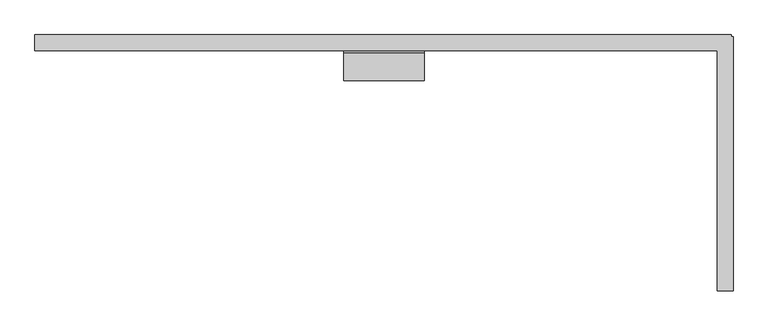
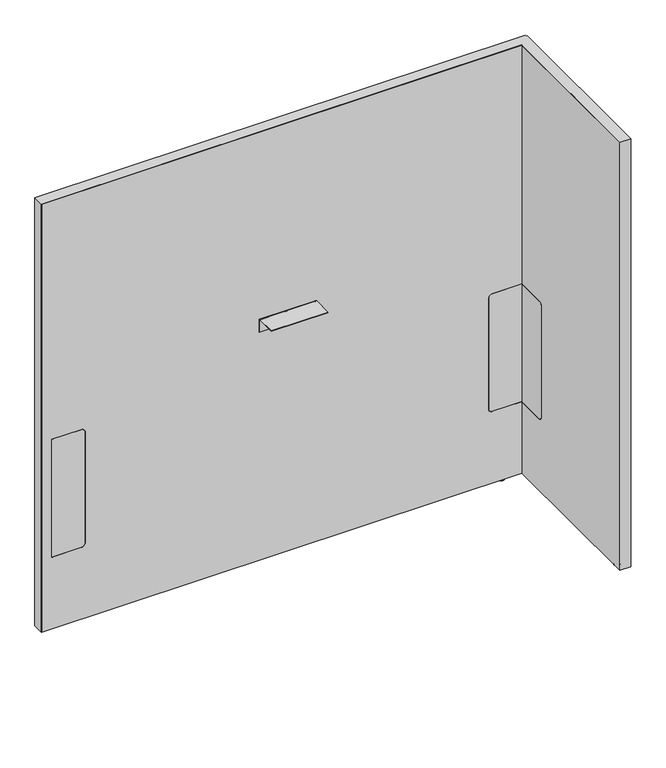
"""IFC4 building model written with IfcOpenShell, lengths in millimetres: furniture geometry, Steelcase - Answer Solution - Boundary Screen - L Return - Single Sided : 48H x 51W."""

import ifcopenshell
import ifcopenshell.guid

model = None  # the IFC model being written
_history = None  # IfcOwnerHistory: only IFC2X3 demands one
_inside = {}  # id of a spatial element -> (the spatial element, [elements in it])
_under = {}  # id of a project, library or spatial element -> (it, [spatial elements below it])
_declared = {}  # id of a project -> (the project, [libraries it declares])
_typed = {}  # id of a type object -> (the type object, [elements of that type])
_made_of = {}  # id of a material, layer set ... -> (it, [elements and type objects made of it])


def new_model(schema):
    """Start an empty IFC model of exactly this schema.

    Asked for "IFC4X3", IfcOpenShell would pick the latest addendum, in which some entities
    have other attributes; the version numbers below select the first issue.
    IFC2X3 requires an IfcOwnerHistory on every rooted entity: one is made here for all.
    """
    global model, _history
    if schema == "IFC4X3":
        model = ifcopenshell.file(schema_version=(4, 3, 0, 0))
    else:
        model = ifcopenshell.file(schema=schema)
    _inside.clear()
    _under.clear()
    _declared.clear()
    _typed.clear()
    _made_of.clear()
    _history = None
    if model.schema == "IFC2X3":
        org = make("IfcOrganization", Name="unknown")
        user = make(
            "IfcPersonAndOrganization",
            ThePerson=make("IfcPerson", FamilyName="unknown"),
            TheOrganization=org,
        )
        app = make(
            "IfcApplication",
            ApplicationDeveloper=org,
            Version="unknown",
            ApplicationFullName="unknown",
            ApplicationIdentifier="unknown",
        )
        _history = make(
            "IfcOwnerHistory",
            OwningUser=user,
            OwningApplication=app,
            ChangeAction="ADDED",
            CreationDate=0,
        )
    return model


def make(cls, **values):
    """One entity of the class cls with the attributes given. An attribute that is None is left unset."""
    return model.create_entity(
        cls, **{name: value for name, value in values.items() if value is not None}
    )


def rooted(cls, **values):
    """An entity with a GlobalId (a new one), such as an element, a storey or a relation."""
    return make(cls, GlobalId=ifcopenshell.guid.new(), OwnerHistory=_history, **values)


def si_unit(unit_type, name, prefix=None):
    """IfcSIUnit, for example si_unit("LENGTHUNIT", "METRE", prefix="MILLI")."""
    return make("IfcSIUnit", UnitType=unit_type, Prefix=prefix, Name=name)


def assignment(units):
    """IfcUnitAssignment: the units of a project."""
    return None if units is None else make("IfcUnitAssignment", Units=units)


def point(xyz):
    """IfcCartesianPoint."""
    return None if xyz is None else make("IfcCartesianPoint", Coordinates=xyz)


def direction(xyz):
    """IfcDirection."""
    return None if xyz is None else make("IfcDirection", DirectionRatios=xyz)


def frame(location, z_axis=None, x_axis=None):
    """IfcAxis2Placement3D, a coordinate frame: its origin and axes. An axis left out is left unset."""
    return make(
        "IfcAxis2Placement3D",
        Location=point(location),
        Axis=direction(z_axis),
        RefDirection=direction(x_axis),
    )


def frame_2d(location, x_axis=None):
    """IfcAxis2Placement2D, a coordinate frame in the plane: its origin and x axis."""
    return make(
        "IfcAxis2Placement2D", Location=point(location), RefDirection=direction(x_axis)
    )


def origin():
    """The frame at (0, 0, 0) with its axes left unset."""
    return frame((0.0, 0.0, 0.0))


def place(relative_to, where):
    """IfcLocalPlacement: puts the frame where relative to a parent placement (None: the world)."""
    return make(
        "IfcLocalPlacement", PlacementRelTo=relative_to, RelativePlacement=where
    )


def context(
    kind, dimensions, precision=None, world=None, true_north=None, identifier=None
):
    """IfcGeometricRepresentationContext, for example the 3D "Model" context."""
    return make(
        "IfcGeometricRepresentationContext",
        ContextIdentifier=identifier,
        ContextType=kind,
        CoordinateSpaceDimension=dimensions,
        Precision=precision,
        WorldCoordinateSystem=world,
        TrueNorth=true_north,
    )


def project(units=None, contexts=None):
    """IfcProject with its units and contexts."""
    return rooted(
        "IfcProject",
        Name="project",
        RepresentationContexts=contexts,
        UnitsInContext=assignment(units),
    )


def spatial(cls, under=None, at=None, **own):
    """A site, building, storey or space (cls), placed at a placement, below another one or the project."""
    s = rooted(cls, ObjectPlacement=at, **own)
    if under is not None:
        _under.setdefault(under.id(), (under, []))[1].append(s)
    return s


def polyline(points):
    """IfcPolyline through the points."""
    return make("IfcPolyline", Points=[point(p) for p in points])


def circle_curve(where, radius):
    """IfcCircle in the frame where."""
    return make("IfcCircle", Position=where, Radius=radius)


def ellipse_curve(where, semi_axis1, semi_axis2):
    """IfcEllipse in the frame where."""
    return make(
        "IfcEllipse", Position=where, SemiAxis1=semi_axis1, SemiAxis2=semi_axis2
    )


def trimmed(basis, trim1, trim2, sense, master):
    """IfcTrimmedCurve: the piece of a basis curve between two trims."""
    return make(
        "IfcTrimmedCurve",
        BasisCurve=basis,
        Trim1=trim1,
        Trim2=trim2,
        SenseAgreement=sense,
        MasterRepresentation=master,
    )


def segment(curve, same_sense, transition):
    """IfcCompositeCurveSegment."""
    return make(
        "IfcCompositeCurveSegment",
        Transition=transition,
        SameSense=same_sense,
        ParentCurve=curve,
    )


def composite_curve(segments, self_intersect=None):
    """IfcCompositeCurve: segments joined end to end."""
    return make("IfcCompositeCurve", Segments=segments, SelfIntersect=self_intersect)


def outline(outer, holes=None, kind="AREA"):
    """IfcArbitraryClosedProfileDef: a profile drawn as a closed curve; with holes, ...WithVoids."""
    if holes is None:
        return make("IfcArbitraryClosedProfileDef", ProfileType=kind, OuterCurve=outer)
    return make(
        "IfcArbitraryProfileDefWithVoids",
        ProfileType=kind,
        OuterCurve=outer,
        InnerCurves=holes,
    )


def extrude(swept, where, along, depth):
    """IfcExtrudedAreaSolid: the profile swept, set in the frame where, extruded along a direction by depth."""
    return make(
        "IfcExtrudedAreaSolid",
        SweptArea=swept,
        Position=where,
        ExtrudedDirection=direction(along),
        Depth=depth,
    )


def faces_of(points, faces, orient=None, outer=None):
    """IfcFace entities. A face is a list of loops; a loop is a list of indices into points, from 0.

    orient and outer hold one flag for each loop. By default every Orientation is true, the
    first loop of a face is its IfcFaceOuterBound and the others are IfcFaceBound.
    """
    made = []
    for i, loops in enumerate(faces):
        bounds = []
        for j, loop in enumerate(loops):
            is_outer = j == 0 if outer is None else outer[i][j]
            bounds.append(
                make(
                    "IfcFaceOuterBound" if is_outer else "IfcFaceBound",
                    Bound=make("IfcPolyLoop", Polygon=[points[k] for k in loop]),
                    Orientation=True if orient is None else orient[i][j],
                )
            )
        made.append(make("IfcFace", Bounds=bounds))
    return made


def faceted_brep(points, faces, orient=None, outer=None, voids=None):
    """IfcFacetedBrep: a solid bounded by flat faces; with voids (closed shells), ...WithVoids."""
    shared = [point(p) for p in points]
    hull = make("IfcClosedShell", CfsFaces=faces_of(shared, faces, orient, outer))
    if voids is None:
        return make("IfcFacetedBrep", Outer=hull)
    return make(
        "IfcFacetedBrepWithVoids",
        Outer=hull,
        Voids=[
            make(cls, CfsFaces=faces_of(shared, fs, o, b)) for cls, fs, o, b in voids
        ],
    )


def shape(context_of_items, identifier, shape_type, items):
    """IfcShapeRepresentation: the items that make up one representation, for example the "Body"."""
    return make(
        "IfcShapeRepresentation",
        ContextOfItems=context_of_items,
        RepresentationIdentifier=identifier,
        RepresentationType=shape_type,
        Items=items,
    )


def source(mapping_origin, context_of_items, identifier, shape_type, items):
    """IfcRepresentationMap: a shape defined once, which mapped items show again and again."""
    return make(
        "IfcRepresentationMap",
        MappingOrigin=mapping_origin,
        MappedRepresentation=shape(context_of_items, identifier, shape_type, items),
    )


def transform(
    local_origin,
    x_axis=None,
    y_axis=None,
    z_axis=None,
    scale=None,
    scale2=None,
    scale3=None,
    uniform=True,
):
    """IfcCartesianTransformationOperator3D, or its non-uniform kind. x_axis, y_axis, z_axis: its Axis1, 2, 3."""
    if uniform:
        return make(
            "IfcCartesianTransformationOperator3D",
            Axis1=direction(x_axis),
            Axis2=direction(y_axis),
            LocalOrigin=point(local_origin),
            Scale=scale,
            Axis3=direction(z_axis),
        )
    return make(
        "IfcCartesianTransformationOperator3DnonUniform",
        Axis1=direction(x_axis),
        Axis2=direction(y_axis),
        LocalOrigin=point(local_origin),
        Scale=scale,
        Axis3=direction(z_axis),
        Scale2=scale2,
        Scale3=scale3,
    )


def mapped(mapping_source, mapping_target):
    """IfcMappedItem: shows the shape of a source again, moved by a transform."""
    return make(
        "IfcMappedItem", MappingSource=mapping_source, MappingTarget=mapping_target
    )


def made_of(thing, what):
    """Note that an element or type object is made of a material, layer set ...; save() writes the relation."""
    if what is not None:
        _made_of.setdefault(what.id(), (what, []))[1].append(thing)
    return thing


def element(
    cls,
    number,
    at=None,
    inside=None,
    cuts=None,
    type_object=None,
    material=None,
    context=None,
    identifier="Body",
    shape_type=None,
    held_by="IfcProductDefinitionShape",
    body=None,
    shapes=None,
    **own,
):
    """One element of the class cls, such as IfcWall. Its Tag is "e" and its number.

    at: its placement. inside: the storey or other place that contains it. cuts: it is an
    opening in that element (IfcRelVoidsElement). A single representation is given by context,
    identifier, shape_type and body (its items); several are given by shapes. held_by: the class
    of the entity that holds the representations. save() writes the other relations.
    """
    e = rooted(cls, Tag="e%d" % number, ObjectPlacement=at, **own)
    if body is not None:
        shapes = [shape(context, identifier, shape_type, body)]
    if shapes is not None:
        e.Representation = make(held_by, Representations=shapes)
    if inside is not None:
        _inside.setdefault(inside.id(), (inside, []))[1].append(e)
    if cuts is not None:
        rooted(
            "IfcRelVoidsElement", RelatingBuildingElement=cuts, RelatedOpeningElement=e
        )
    if type_object is not None:
        _typed.setdefault(type_object.id(), (type_object, []))[1].append(e)
    return made_of(e, material)


def aggregate(whole, parts):
    """IfcRelAggregates: a whole, such as a stair, and the parts it consists of."""
    return rooted("IfcRelAggregates", RelatingObject=whole, RelatedObjects=parts)


def save(model, path):
    """Write the relations noted so far, then the file.

    IfcRelAggregates (storeys below a building ...), IfcRelContainedInSpatialStructure (elements
    in a storey), IfcRelDefinesByType, IfcRelAssociatesMaterial and IfcRelDeclares: one each for
    every whole, place, type object, material and project.
    """
    for whole, parts in _under.values():
        aggregate(whole, parts)
    for where, things in _inside.values():
        rooted(
            "IfcRelContainedInSpatialStructure",
            RelatedElements=things,
            RelatingStructure=where,
        )
    for kind, things in _typed.values():
        rooted("IfcRelDefinesByType", RelatedObjects=things, RelatingType=kind)
    for what, things in _made_of.values():
        rooted("IfcRelAssociatesMaterial", RelatedObjects=things, RelatingMaterial=what)
    for by, libraries in _declared.values():
        rooted("IfcRelDeclares", RelatingContext=by, RelatedDefinitions=libraries)
    model.write(path)


def plane_surface(at):
    """IfcPlane: the flat surface through the origin of the frame at, square to its z axis."""
    return make("IfcPlane", Position=at)


def cylinder_surface(at, radius):
    """IfcCylindricalSurface: all points at the distance radius from the z axis of the frame at."""
    return make("IfcCylindricalSurface", Position=at, Radius=radius)


def revolved_surface(curve, axis_point, axis_direction):
    """IfcSurfaceOfRevolution: the curve turned about the line through axis_point along axis_direction."""
    return make(
        "IfcSurfaceOfRevolution",
        SweptCurve=make("IfcArbitraryOpenProfileDef", ProfileType="CURVE", Curve=curve),
        AxisPosition=make("IfcAxis1Placement", Location=point(axis_point), Axis=direction(axis_direction)),
    )


def advanced_brep(points, edges, surfaces, faces):
    """IfcAdvancedBrep: a solid bounded by faces that lie on surfaces and meet in shared edges.

    An edge is (start, end): straight between two places in points (the first is 0);
    or (start, end, curve); or (start, end, curve, False) where it runs against its curve.
    A face is (place in surfaces, loops), or (place, loops, False) where it looks against
    its surface's normal. A loop lists edges by number (the first is 1), with a minus sign
    where the edge is run from its end to its start. The first loop is the outer one.
    """
    corners = [point(p) for p in points]
    vertices = [make("IfcVertexPoint", VertexGeometry=c) for c in corners]
    made = []
    for start, end, *more in edges:
        made.append(
            make(
                "IfcEdgeCurve",
                EdgeStart=vertices[start],
                EdgeEnd=vertices[end],
                EdgeGeometry=more[0] if more else make("IfcPolyline", Points=[corners[start], corners[end]]),
                SameSense=more[1] if len(more) > 1 else True,
            )
        )
    hull = []
    for where, loops, *sense in faces:
        bounds = []
        for j, loop in enumerate(loops):
            ring = [make("IfcOrientedEdge", EdgeElement=made[abs(k) - 1], Orientation=k > 0) for k in loop]
            bounds.append(
                make(
                    "IfcFaceOuterBound" if j == 0 else "IfcFaceBound",
                    Bound=make("IfcEdgeLoop", EdgeList=ring),
                    Orientation=True,
                )
            )
        hull.append(make("IfcAdvancedFace", Bounds=bounds, FaceSurface=surfaces[where], SameSense=sense[0] if sense else True))
    return make("IfcAdvancedBrep", Outer=make("IfcClosedShell", CfsFaces=hull))


def furniture_119cb64d(model_context):
    return source(origin(), model_context, "Body", "SolidModel", [
        extrude(outline(composite_curve([segment(polyline([(-109.3501471, 549.6162029), (-29.0550397, 549.6162029), (-29.0550397, 213.7762137), (-109.3501471, 213.7762137)]), True, "CONTINUOUS"), segment(trimmed(circle_curve(frame_2d((-109.3501471, 223.9362137)), 10.16), [point((-109.3501471, 213.7762137))], [point((-119.5101471, 223.9362137))], False, "CARTESIAN"), True, "CONTINUOUS"), segment(polyline([(-119.5101471, 223.9362137), (-119.5101471, 539.4562029)]), True, "CONTINUOUS"), segment(trimmed(circle_curve(frame_2d((-109.3501471, 539.4562029)), 10.16), [point((-119.5101471, 539.4562029))], [point((-109.3501471, 549.6162029))], False, "CARTESIAN"), True, "CONTINUOUS")], self_intersect=False)), frame((1525.2191891, 0.0, 0.0), z_axis=(1.0, 0.0, 0.0), x_axis=(0.0, 1.0, 0.0)), (0.0, 0.0, 1.0), 0.6401544),
        advanced_brep(
        [(1540.0672074, -448.0136072, 0.0), (1547.0216144, -448.0136072, 0.0), (1533.1128003, -448.0136072, 0.0), (1548.4762685, -448.0136072, 1.2700001), (1531.6581463, -448.0136072, 1.2700001), (1548.4762685, -448.0136072, 2.9673238), (1531.6581463, -448.0136072, 2.9673238), (1549.4427877, -448.0136072, 2.9673238), (1530.691627, -448.0136072, 2.9673238), (1549.4427877, -448.0136072, 9.9059849), (1530.691627, -448.0136072, 9.9059849), (1540.0672074, -448.0136072, 9.9059849)],
        [
            (0, 1),
            (1, 2, circle_curve(frame((1540.0672074, -448.0136072, 0.0), z_axis=(0.0, 0.0, -1.0), x_axis=(1.0, 0.0, 0.0)), 6.9544071)),
            (2, 0),
            (2, 1, circle_curve(frame((1540.0672074, -448.0136072, 0.0), z_axis=(0.0, 0.0, -1.0), x_axis=(1.0, 0.0, 0.0)), 6.9544071)),
            (1, 3, circle_curve(frame((1547.1945484, -448.0136072, 1.2700001), z_axis=(0.0, -1.0, 0.0), x_axis=(0.0, 0.0, 1.0)), 1.2817201)),
            (3, 4, circle_curve(frame((1540.0672074, -448.0136072, 1.2700001), z_axis=(0.0, 0.0, -1.0), x_axis=(1.0, 0.0, 0.0)), 8.4090611)),
            (4, 2, circle_curve(frame((1532.9398663, -448.0136072, 1.2700001), z_axis=(0.0, -1.0, 0.0), x_axis=(0.0, 0.0, 1.0)), 1.2817201)),
            (4, 3, circle_curve(frame((1540.0672074, -448.0136072, 1.2700001), z_axis=(0.0, 0.0, -1.0), x_axis=(1.0, 0.0, 0.0)), 8.4090611)),
            (3, 5),
            (5, 6, circle_curve(frame((1540.0672074, -448.0136072, 2.9673238), z_axis=(0.0, 0.0, -1.0), x_axis=(1.0, 0.0, 0.0)), 8.4090611)),
            (6, 4),
            (6, 5, circle_curve(frame((1540.0672074, -448.0136072, 2.9673238), z_axis=(0.0, 0.0, -1.0), x_axis=(1.0, 0.0, 0.0)), 8.4090611)),
            (5, 7),
            (7, 8, circle_curve(frame((1540.0672074, -448.0136072, 2.9673238), z_axis=(0.0, 0.0, -1.0), x_axis=(1.0, 0.0, 0.0)), 9.3755804)),
            (8, 6),
            (8, 7, circle_curve(frame((1540.0672074, -448.0136072, 2.9673238), z_axis=(0.0, 0.0, -1.0), x_axis=(1.0, 0.0, 0.0)), 9.3755804)),
            (7, 9),
            (9, 10, circle_curve(frame((1540.0672074, -448.0136072, 9.9059849), z_axis=(0.0, 0.0, -1.0), x_axis=(1.0, 0.0, 0.0)), 9.3755804)),
            (10, 8),
            (10, 9, circle_curve(frame((1540.0672074, -448.0136072, 9.9059849), z_axis=(0.0, 0.0, -1.0), x_axis=(1.0, 0.0, 0.0)), 9.3755804)),
            (9, 11),
            (11, 10),
        ],
        [
            plane_surface(frame((1540.0672074, -448.0136072, 0.0), z_axis=(0.0, 0.0, -1.0), x_axis=(1.0, 0.0, 0.0))),
            revolved_surface(trimmed(ellipse_curve(frame((1547.1945484, -448.0136072, 1.2700001), z_axis=(0.0, 1.0, 0.0), x_axis=(0.0, 0.0, 1.0)), 1.2817201, 1.2817201), [point((1548.4762685, -448.0136072, 1.2700001))], [point((1547.0216144, -448.0136072, 0.0))], True, "CARTESIAN"), (1540.0672074, -448.0136072, 9.9059849), (0.0, 0.0, -1.0)),
            cylinder_surface(frame((1540.0672074, -448.0136072, 9.9059849), z_axis=(0.0, 0.0, -1.0), x_axis=(1.0, 0.0, 0.0)), 8.4090611),
            plane_surface(frame((1540.0672074, -448.0136072, 2.9673238), z_axis=(0.0, 0.0, -1.0), x_axis=(1.0, 0.0, 0.0))),
            cylinder_surface(frame((1540.0672074, -448.0136072, 9.9059849), z_axis=(0.0, 0.0, -1.0), x_axis=(1.0, 0.0, 0.0)), 9.3755804),
            plane_surface(frame((1540.0672074, -448.0136072, 9.9059849), z_axis=(0.0, 0.0, 1.0), x_axis=(1.0, 0.0, 0.0))),
        ],
        [
            (0, [[1, 2, 3]]),
            (0, [[-3, 4, -1]]),
            (1, [[-2, 5, 6, 7]]),
            (1, [[-4, -7, 8, -5]]),
            (2, [[-6, 9, 10, 11]]),
            (2, [[-8, -11, 12, -9]]),
            (3, [[-10, 13, 14, 15]]),
            (3, [[-12, -15, 16, -13]]),
            (4, [[-14, 17, 18, 19]]),
            (4, [[-16, -19, 20, -17]]),
            (5, [[-18, 21, 22]]),
            (5, [[-20, -22, -21]]),
        ],
    ),
        faceted_brep([(1551.6531179, 0.0, 1230.122), (1551.6531179, 0.0, 9.9059849), (1550.6621491, 0.0, 9.9059849), (1550.6621491, 0.0, 1229.142118), (230.8097779, 0.0, 1229.142118), (230.8097779, 0.0, 9.9059849), (229.8191891, 0.0, 9.9059849), (229.8191891, 0.0, 1230.122), (229.8191891, -29.6898332, 1230.122), (229.8191891, -29.6898332, 9.9059849), (230.8097779, -29.6898332, 9.9059849), (230.8097779, -29.6898332, 1229.142118), (1525.2191891, -29.6898332, 1229.142118), (1525.2191891, -29.6898332, 1230.122), (1550.6621491, -29.6898332, 1229.142118), (1550.6621491, -29.6898332, 9.9059849), (1551.6531179, -29.6898332, 9.9059849), (1551.6531179, -29.6898332, 1229.142118), (1551.6531179, -3.2625916, 1230.122), (1551.6531179, -3.2625916, 9.9059849), (1551.6531179, -4.252647, 9.9059849), (1551.6531179, -4.252647, 1229.142118), (1554.9152256, -3.2625916, 9.9059849), (1554.9152256, -4.252647, 9.9059849), (1550.6621491, -4.252647, 9.9059849), (1525.2191891, -4.252647, 9.9059849), (1525.2191891, -3.2625916, 9.9059849), (1550.6621491, -3.2625916, 9.9059849), (1525.2191891, -486.8898332, 1230.122), (1554.9152256, -486.8898332, 1230.122), (1554.9152256, -3.2625916, 1230.122), (1550.6621491, -3.2625916, 1229.142118), (1550.6621491, -4.252647, 1229.142118), (1525.2191891, -3.2625916, 1229.142118), (1525.2191891, -4.252647, 1229.142118), (1554.9152256, -4.252647, 1229.142118), (1554.9152256, -485.899196, 1229.142118), (1525.2191891, -485.899196, 1229.142118), (1525.2191891, -485.899196, 9.9059849), (1525.2191891, -486.8898332, 9.9059849), (1554.9152256, -486.8898332, 9.9059849), (1554.9152256, -485.899196, 9.9059849)], [[[0, 1, 2, 3, 4, 5, 6, 7]], [[8, 9, 10, 11, 12, 13]], [[14, 15, 16, 17]], [[1, 0, 18, 19]], [[17, 16, 20, 21]], [[2, 1, 19, 22, 23, 20, 16, 15, 24, 25, 26, 27]], [[7, 6, 9, 8]], [[0, 7, 8, 13, 28, 29, 30, 18]], [[3, 2, 27, 31]], [[15, 14, 32, 24]], [[4, 3, 31, 33, 34, 32, 14, 17, 21, 35, 36, 37, 12, 11]], [[5, 4, 11, 10]], [[6, 5, 10, 9]], [[26, 25, 34, 33]], [[37, 38, 39, 28, 13, 12]], [[29, 40, 41, 36, 35, 23, 22, 30]], [[27, 26, 33, 31]], [[30, 22, 19, 18]], [[34, 25, 24, 32]], [[23, 35, 21, 20]], [[38, 37, 36, 41]], [[39, 38, 41, 40]], [[28, 39, 40, 29]]]),
        extrude(outline(composite_curve([segment(polyline([(-86.8398151, 696.4680019), (-86.8398151, 698.5), (-34.9450855, 698.5)]), True, "CONTINUOUS"), segment(trimmed(circle_curve(frame_2d((-34.9450855, 693.2447477)), 5.2552523), [point((-34.9450855, 698.5))], [point((-29.6898332, 693.2447477))], False, "CARTESIAN"), True, "CONTINUOUS"), segment(polyline([(-29.6898332, 693.2447477), (-29.6898332, 660.4), (-31.7218162, 660.4), (-31.7218162, 693.0058743)]), True, "CONTINUOUS"), segment(trimmed(circle_curve(frame_2d((-35.1839438, 693.0058743)), 3.4621276), [point((-31.7218162, 693.0058743))], [point((-35.1839438, 696.4680019))], True, "CARTESIAN"), True, "CONTINUOUS"), segment(polyline([(-35.1839438, 696.4680019), (-86.8398151, 696.4680019)]), True, "CONTINUOUS")], self_intersect=False)), frame((816.1685899, 0.0, 0.0), z_axis=(1.0, 0.0, 0.0), x_axis=(0.0, 1.0, 0.0)), (0.0, 0.0, 1.0), 152.4000969),
        advanced_brep(
        [(1477.7246853, -23.7588726, 9.9059849), (1477.7246853, -5.9309607, 9.9059849), (1477.7246853, -14.8449166, 9.9059849), (1477.7246853, -23.7588726, 2.9673238), (1477.7246853, -5.9309607, 2.9673238), (1477.7246853, -22.7915354, 2.9673238), (1477.7246853, -6.8982978, 2.9673238), (1477.7246853, -22.7915354, 1.6569081), (1477.7246853, -6.8982978, 1.6569081), (1477.7246853, -21.1346274, 0.0), (1477.7246853, -8.5552059, 0.0), (1477.7246853, -14.8449166, 0.0)],
        [
            (0, 1, circle_curve(frame((1477.7246853, -14.8449166, 9.9059849), z_axis=(0.0, 0.0, 1.0), x_axis=(0.0, 1.0, 0.0)), 8.913956)),
            (1, 2),
            (2, 0),
            (1, 0, circle_curve(frame((1477.7246853, -14.8449166, 9.9059849), z_axis=(0.0, 0.0, 1.0), x_axis=(0.0, 1.0, 0.0)), 8.913956)),
            (3, 4, circle_curve(frame((1477.7246853, -14.8449166, 2.9673238), z_axis=(0.0, 0.0, 1.0), x_axis=(0.0, 1.0, 0.0)), 8.913956)),
            (4, 1),
            (0, 3),
            (4, 3, circle_curve(frame((1477.7246853, -14.8449166, 2.9673238), z_axis=(0.0, 0.0, 1.0), x_axis=(0.0, 1.0, 0.0)), 8.913956)),
            (5, 6, circle_curve(frame((1477.7246853, -14.8449166, 2.9673238), z_axis=(0.0, 0.0, 1.0), x_axis=(0.0, 1.0, 0.0)), 7.9466188)),
            (6, 4),
            (3, 5),
            (6, 5, circle_curve(frame((1477.7246853, -14.8449166, 2.9673238), z_axis=(0.0, 0.0, 1.0), x_axis=(0.0, 1.0, 0.0)), 7.9466188)),
            (7, 8, circle_curve(frame((1477.7246853, -14.8449166, 1.6569081), z_axis=(0.0, 0.0, 1.0), x_axis=(0.0, 1.0, 0.0)), 7.9466188)),
            (8, 6),
            (5, 7),
            (8, 7, circle_curve(frame((1477.7246853, -14.8449166, 1.6569081), z_axis=(0.0, 0.0, 1.0), x_axis=(0.0, 1.0, 0.0)), 7.9466188)),
            (9, 10, circle_curve(frame((1477.7246853, -14.8449166, 0.0), z_axis=(0.0, 0.0, 1.0), x_axis=(0.0, 1.0, 0.0)), 6.2897107)),
            (10, 8, circle_curve(frame((1477.7246853, -8.5552059, 1.6569081), z_axis=(1.0, 0.0, 0.0), x_axis=(0.0, 1.0, 0.0)), 1.6569081)),
            (7, 9, circle_curve(frame((1477.7246853, -21.1346274, 1.6569081), z_axis=(1.0, 0.0, 0.0), x_axis=(0.0, -1.0, 0.0)), 1.6569081)),
            (10, 9, circle_curve(frame((1477.7246853, -14.8449166, 0.0), z_axis=(0.0, 0.0, 1.0), x_axis=(0.0, 1.0, 0.0)), 6.2897107)),
            (11, 10),
            (9, 11),
        ],
        [
            plane_surface(frame((1477.7246853, -14.8449166, 9.9059849), z_axis=(0.0, 0.0, 1.0), x_axis=(0.0, 1.0, 0.0))),
            cylinder_surface(frame((1477.7246853, -14.8449166, 9.9059849), z_axis=(0.0, 0.0, -1.0), x_axis=(0.0, 1.0, 0.0)), 8.913956),
            plane_surface(frame((1477.7246853, -14.8449166, 2.9673238), z_axis=(0.0, 0.0, -1.0), x_axis=(0.0, 1.0, 0.0))),
            cylinder_surface(frame((1477.7246853, -14.8449166, 9.9059849), z_axis=(0.0, 0.0, -1.0), x_axis=(0.0, 1.0, 0.0)), 7.9466188),
            revolved_surface(trimmed(ellipse_curve(frame((1477.7246853, -8.5552059, 1.6569081), z_axis=(-1.0, 0.0, 0.0), x_axis=(0.0, 1.0, 0.0)), 1.6569081, 1.6569081), [point((1477.7246853, -6.8982978, 1.6569081))], [point((1477.7246853, -8.5552059, 0.0))], True, "CARTESIAN"), (1477.7246853, -14.8449166, 9.9059849), (0.0, 0.0, -1.0)),
            plane_surface(frame((1477.7246853, -14.8449166, 0.0), z_axis=(0.0, 0.0, -1.0), x_axis=(0.0, 1.0, 0.0))),
        ],
        [
            (0, [[1, 2, 3]]),
            (0, [[4, -3, -2]]),
            (1, [[5, 6, -1, 7]]),
            (1, [[8, -7, -4, -6]]),
            (2, [[9, 10, -5, 11]]),
            (2, [[12, -11, -8, -10]]),
            (3, [[13, 14, -9, 15]]),
            (3, [[16, -15, -12, -14]]),
            (4, [[17, 18, -13, 19]]),
            (4, [[20, -19, -16, -18]]),
            (5, [[21, -17, 22]]),
            (5, [[-22, -20, -21]]),
        ],
    ),
        advanced_brep(
        [(230.8097779, 0.0, 1229.142118), (1550.6621491, 0.0, 1229.142118), (1550.6621491, 0.0, 9.9059849), (230.8097779, 0.0, 9.9059849), (347.9483813, -29.0550397, 539.4562029), (337.7883813, -29.0550397, 549.6162029), (258.1344836, -29.0550397, 549.6162029), (258.1344836, -29.0550397, 213.7762137), (337.7883813, -29.0550397, 213.7762137), (347.9483813, -29.0550397, 223.9362137), (1525.8593435, -29.0550397, 213.7762137), (1525.8593435, -29.0550397, 549.6162029), (1445.3109268, -29.0550397, 549.6162029), (1435.1509268, -29.0550397, 539.4562029), (1435.1509268, -29.0550397, 223.9362137), (1445.3109268, -29.0550397, 213.7762137), (230.8097779, -29.6898332, 1229.142118), (230.8097779, -29.6898332, 9.9059849), (1525.2191891, -29.6898332, 9.9059849), (1525.2191891, -29.6898332, 213.7762137), (1445.3109268, -29.6898332, 213.7762137), (1435.1509268, -29.6898332, 223.9362137), (1435.1509268, -29.6898332, 539.4562029), (1445.3109268, -29.6898332, 549.6162029), (1525.2191891, -29.6898332, 549.6162029), (1525.2191891, -29.6898332, 1229.142118), (337.7883813, -29.6898332, 549.6162029), (347.9483813, -29.6898332, 539.4562029), (347.9483813, -29.6898332, 223.9362137), (337.7883813, -29.6898332, 213.7762137), (258.1344836, -29.6898332, 213.7762137), (258.1344836, -29.6898332, 549.6162029), (1550.6621491, -4.252647, 9.9059849), (1554.9152256, -4.252647, 9.9059849), (1554.9152256, -485.899196, 9.9059849), (1525.2191891, -485.899196, 9.9059849), (1550.6621491, -4.252647, 1229.142118), (1525.2191891, -485.899196, 1229.142118), (1554.9152256, -485.899196, 1229.142118), (1554.9152256, -4.252647, 1229.142118), (1525.8593435, -109.3501471, 549.6162029), (1525.2191891, -109.3501471, 549.6162029), (1525.8593435, -109.3501471, 213.7762137), (1525.8593435, -119.5101471, 223.9362137), (1525.8593435, -119.5101471, 539.4562029), (1525.2191891, -109.3501471, 213.7762137), (1525.2191891, -119.5101471, 539.4562029), (1525.2191891, -119.5101471, 223.9362137)],
        [
            (0, 1),
            (1, 2),
            (2, 3),
            (3, 0),
            (4, 5, circle_curve(frame((337.7883813, -29.0550397, 539.4562029), z_axis=(0.0, -1.0, 0.0), x_axis=(0.0, 0.0, 1.0)), 10.16)),
            (5, 6),
            (6, 7),
            (7, 8),
            (8, 9, circle_curve(frame((337.7883813, -29.0550397, 223.9362137), z_axis=(0.0, -1.0, 0.0), x_axis=(0.0, 0.0, 1.0)), 10.16)),
            (9, 4),
            (10, 11),
            (11, 12),
            (12, 13, circle_curve(frame((1445.3109268, -29.0550397, 539.4562029), z_axis=(0.0, -1.0, 0.0), x_axis=(0.0, 0.0, 1.0)), 10.16)),
            (13, 14),
            (14, 15, circle_curve(frame((1445.3109268, -29.0550397, 223.9362137), z_axis=(0.0, -1.0, 0.0), x_axis=(0.0, 0.0, 1.0)), 10.16)),
            (15, 10),
            (16, 17),
            (17, 18),
            (18, 19),
            (19, 20),
            (20, 21, circle_curve(frame((1445.3109268, -29.6898332, 223.9362137), z_axis=(0.0, 1.0, 0.0), x_axis=(0.0, 0.0, 1.0)), 10.16)),
            (21, 22),
            (22, 23, circle_curve(frame((1445.3109268, -29.6898332, 539.4562029), z_axis=(0.0, 1.0, 0.0), x_axis=(0.0, 0.0, 1.0)), 10.16)),
            (23, 24),
            (24, 25),
            (25, 16),
            (26, 27, circle_curve(frame((337.7883813, -29.6898332, 539.4562029), z_axis=(0.0, 1.0, 0.0), x_axis=(0.0, 0.0, 1.0)), 10.16)),
            (27, 28),
            (28, 29, circle_curve(frame((337.7883813, -29.6898332, 223.9362137), z_axis=(0.0, 1.0, 0.0), x_axis=(0.0, 0.0, 1.0)), 10.16)),
            (29, 30),
            (30, 31),
            (31, 26),
            (16, 0),
            (3, 17),
            (2, 32),
            (32, 33),
            (33, 34),
            (34, 35),
            (35, 18),
            (1, 36),
            (36, 32),
            (25, 37),
            (37, 38),
            (38, 39),
            (39, 36),
            (26, 5),
            (4, 27),
            (9, 28),
            (8, 29),
            (7, 30),
            (6, 31),
            (11, 40),
            (40, 41),
            (41, 24),
            (23, 12),
            (42, 43, circle_curve(frame((1525.8593435, -109.3501471, 223.9362137), z_axis=(-1.0, 0.0, 0.0), x_axis=(0.0, 1.0, 0.0)), 10.16)),
            (43, 44),
            (44, 40, circle_curve(frame((1525.8593435, -109.3501471, 539.4562029), z_axis=(-1.0, 0.0, 0.0), x_axis=(0.0, 1.0, 0.0)), 10.16)),
            (10, 42),
            (15, 20),
            (19, 45),
            (45, 42),
            (14, 21),
            (13, 22),
            (35, 37),
            (41, 46, circle_curve(frame((1525.2191891, -109.3501471, 539.4562029), z_axis=(1.0, 0.0, 0.0), x_axis=(0.0, 1.0, 0.0)), 10.16)),
            (46, 47),
            (47, 45, circle_curve(frame((1525.2191891, -109.3501471, 223.9362137), z_axis=(1.0, 0.0, 0.0), x_axis=(0.0, 1.0, 0.0)), 10.16)),
            (38, 34),
            (33, 39),
            (44, 46),
            (43, 47),
        ],
        [
            plane_surface(frame((347.9483813, 0.0, 549.6162029), z_axis=(0.0, 1.0, 0.0), x_axis=(0.0, 0.0, -1.0))),
            plane_surface(frame((347.9483813, -29.0550397, 549.6162029), z_axis=(0.0, -1.0, 0.0), x_axis=(0.0, 0.0, 1.0))),
            plane_surface(frame((1550.6621491, -29.6898332, 1229.142118), z_axis=(0.0, -1.0, 0.0), x_axis=(-1.0, 0.0, 0.0))),
            plane_surface(frame((230.8097779, 0.0, 9.9059849), z_axis=(-1.0, 0.0, 0.0), x_axis=(0.0, -1.0, 0.0))),
            plane_surface(frame((1550.6621491, 0.0, 9.9059849), z_axis=(0.0, 0.0, -1.0), x_axis=(0.0, -1.0, 0.0))),
            plane_surface(frame((1550.6621491, 0.0, 1229.142118), z_axis=(1.0, 0.0, 0.0), x_axis=(0.0, -1.0, 0.0))),
            plane_surface(frame((230.8097779, 0.0, 1229.142118), z_axis=(0.0, 0.0, 1.0), x_axis=(0.0, -1.0, 0.0))),
            revolved_surface(polyline([(337.7883813, -29.6898332, 549.6162029), (337.7883813, -29.0550397, 549.6162029)]), (337.7883813, -29.6898332, 539.4562029), (0.0, -1.0, 0.0)),
            plane_surface(frame((347.9483813, 0.0, 223.9362137), z_axis=(-1.0, 0.0, 0.0), x_axis=(0.0, -1.0, 0.0))),
            revolved_surface(polyline([(337.7883813, -29.6898332, 234.0962137), (337.7883813, -29.0550397, 234.0962137)]), (337.7883813, -29.6898332, 223.9362137), (0.0, -1.0, 0.0)),
            plane_surface(frame((258.1344836, 0.0, 213.7762137), z_axis=(0.0, 0.0, 1.0), x_axis=(0.0, -1.0, 0.0))),
            plane_surface(frame((258.1344836, 0.0, 549.6162029), z_axis=(1.0, 0.0, 0.0), x_axis=(0.0, -1.0, 0.0))),
            plane_surface(frame((337.7883813, 0.0, 549.6162029), z_axis=(0.0, 0.0, -1.0), x_axis=(0.0, -1.0, 0.0))),
            plane_surface(frame((1525.8593435, 0.0, 549.6162029), z_axis=(0.0, 0.0, -1.0), x_axis=(0.0, -1.0, 0.0))),
            plane_surface(frame((1525.8593435, 0.0, 213.7762137), z_axis=(-1.0, 0.0, 0.0), x_axis=(0.0, -1.0, 0.0))),
            plane_surface(frame((1445.3109268, 0.0, 213.7762137), z_axis=(0.0, 0.0, 1.0), x_axis=(0.0, -1.0, 0.0))),
            revolved_surface(polyline([(1445.3109268, -29.6898332, 234.0962137), (1445.3109268, -29.0550397, 234.0962137)]), (1445.3109268, -29.6898332, 223.9362137), (0.0, -1.0, 0.0)),
            plane_surface(frame((1435.1509268, 0.0, 539.4562029), z_axis=(1.0, 0.0, 0.0), x_axis=(0.0, -1.0, 0.0))),
            revolved_surface(polyline([(1445.3109268, -29.6898332, 549.6162029), (1445.3109268, -29.0550397, 549.6162029)]), (1445.3109268, -29.6898332, 539.4562029), (0.0, -1.0, 0.0)),
            plane_surface(frame((1525.2191891, -485.899196, 1229.142118), z_axis=(-1.0, 0.0, 0.0), x_axis=(0.0, 0.0, 1.0))),
            plane_surface(frame((1554.9152256, -485.899196, 1229.142118), z_axis=(1.0, 0.0, 0.0), x_axis=(0.0, 0.0, -1.0))),
            plane_surface(frame((1554.9152256, -4.252647, 9.9059849), z_axis=(0.0, 1.0, 0.0), x_axis=(-1.0, 0.0, 0.0))),
            plane_surface(frame((1554.9152256, -485.899196, 1229.142118), z_axis=(0.0, -1.0, 0.0), x_axis=(-1.0, 0.0, 0.0))),
            revolved_surface(polyline([(1525.2191891, -99.1901471, 539.4562029), (1525.8593435, -99.1901471, 539.4562029)]), (-340.6902705, -109.3501471, 539.4562029), (-1.0, 0.0, 0.0)),
            plane_surface(frame((1554.9152256, -119.5101471, 223.9362137), z_axis=(0.0, 1.0, 0.0), x_axis=(-1.0, 0.0, 0.0))),
            revolved_surface(polyline([(1525.2191891, -99.1901471, 223.9362137), (1525.8593435, -99.1901471, 223.9362137)]), (-340.6902705, -109.3501471, 223.9362137), (-1.0, 0.0, 0.0)),
        ],
        [
            (0, [[1, 2, 3, 4]]),
            (1, [[5, 6, 7, 8, 9, 10]]),
            (1, [[11, 12, 13, 14, 15, 16]]),
            (2, [[17, 18, 19, 20, 21, 22, 23, 24, 25, 26], [27, 28, 29, 30, 31, 32]]),
            (3, [[-17, 33, -4, 34]]),
            (4, [[-3, 35, 36, 37, 38, 39, -18, -34]]),
            (5, [[-2, 40, 41, -35]]),
            (6, [[-1, -33, -26, 42, 43, 44, 45, -40]]),
            (7, [[-27, 46, -5, 47]]),
            (8, [[-28, -47, -10, 48]]),
            (9, [[-29, -48, -9, 49]]),
            (10, [[-30, -49, -8, 50]]),
            (11, [[-31, -50, -7, 51]]),
            (12, [[-32, -51, -6, -46]]),
            (13, [[52, 53, 54, -24, 55, -12]]),
            (14, [[56, 57, 58, -52, -11, 59]]),
            (15, [[-59, -16, 60, -20, 61, 62]]),
            (16, [[-21, -60, -15, 63]]),
            (17, [[-22, -63, -14, 64]]),
            (18, [[-23, -64, -13, -55]]),
            (19, [[65, -42, -25, -54, 66, 67, 68, -61, -19, -39]]),
            (20, [[69, -37, 70, -44]]),
            (21, [[-70, -36, -41, -45]]),
            (22, [[-65, -38, -69, -43]]),
            (23, [[-66, -53, -58, 71]]),
            (24, [[-67, -71, -57, 72]]),
            (25, [[-68, -72, -56, -62]]),
        ],
    ),
        extrude(outline(composite_curve([segment(polyline([(549.6162029, 337.7883813), (549.6162029, 258.1344836), (213.7762137, 258.1344836), (213.7762137, 337.7883813)]), True, "CONTINUOUS"), segment(trimmed(circle_curve(frame_2d((223.9362137, 337.7883813)), 10.16), [point((213.7762137, 337.7883813))], [point((223.9362137, 347.9483813))], False, "CARTESIAN"), True, "CONTINUOUS"), segment(polyline([(223.9362137, 347.9483813), (539.4562029, 347.9483813)]), True, "CONTINUOUS"), segment(trimmed(circle_curve(frame_2d((539.4562029, 337.7883813)), 10.16), [point((539.4562029, 347.9483813))], [point((549.6162029, 337.7883813))], False, "CARTESIAN"), True, "CONTINUOUS")], self_intersect=False)), frame((0.0, -29.6898332, 0.0), z_axis=(0.0, 1.0, 0.0), x_axis=(0.0, 0.0, 1.0)), (0.0, 0.0, 1.0), 0.6347935),
        extrude(outline(composite_curve([segment(trimmed(circle_curve(frame_2d((539.4562029, 1445.3109268)), 10.16), [point((549.6162029, 1445.3109268))], [point((539.4562029, 1435.1509268))], False, "CARTESIAN"), True, "CONTINUOUS"), segment(polyline([(539.4562029, 1435.1509268), (223.9362137, 1435.1509268)]), True, "CONTINUOUS"), segment(trimmed(circle_curve(frame_2d((223.9362137, 1445.3109268)), 10.16), [point((223.9362137, 1435.1509268))], [point((213.7762137, 1445.3109268))], False, "CARTESIAN"), True, "CONTINUOUS"), segment(polyline([(213.7762137, 1445.3109268), (213.7762137, 1525.2191891), (549.6162029, 1525.2191891), (549.6162029, 1445.3109268)]), True, "CONTINUOUS")], self_intersect=False)), frame((0.0, -29.6898332, 0.0), z_axis=(0.0, 1.0, 0.0), x_axis=(0.0, 0.0, 1.0)), (0.0, 0.0, 1.0), 0.6347935),
    ])


if __name__ == "__main__":
    model = new_model("IFC4")
    model_context = context("Model", 3, world=origin())
    ifc_project = project(units=[si_unit("LENGTHUNIT", "METRE", prefix="MILLI")], contexts=[model_context])
    site = spatial("IfcSite", under=ifc_project)
    building = spatial("IfcBuilding", under=site)
    placement = place(None, origin())
    furniture_shape = furniture_119cb64d(model_context)
    element("IfcFurniture", 1, ObjectType="Steelcase - Answer Solution - Boundary Screen - L Return - Single Sided : 48H x 51W", at=placement, inside=building, context=model_context, shape_type="MappedRepresentation", body=[
        mapped(furniture_shape, transform((0.0, 0.0, 0.0), x_axis=(1.0, 0.0, 0.0), y_axis=(0.0, 1.0, 0.0), z_axis=(0.0, 0.0, 1.0))),
    ])
    save(model, "model.ifc")
